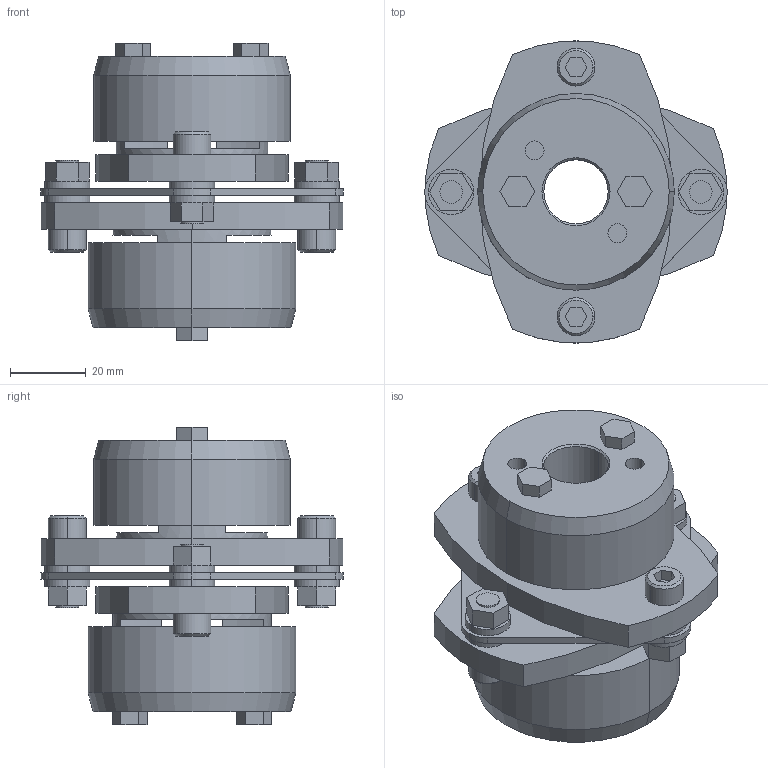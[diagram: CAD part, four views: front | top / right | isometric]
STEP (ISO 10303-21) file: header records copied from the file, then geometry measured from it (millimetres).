
FILE_DESCRIPTION((''),'2;1');
FILE_NAME('LCS-80T7-17×20.stp','2011-09-12T14:53:14',(''),(''),'AutoCAD STEP 2000i','AutoCAD 2000i',', , ');
FILE_SCHEMA(('CONFIG_CONTROL_DESIGN'));
Length unit declared in the file: millimetre
Products named in the file (6): LCS-80T7-17×19; 忣兜1; LC80T7-T019; LC80T7-T017-1; LC80T7-T017; LCS80-ITA
Assembly tree (5 placements, depth 2):
  LCS-80T7-17×19
    忣兜1
    LC80T7-T019
    LC80T7-T017-1
    LC80T7-T017
    LCS80-ITA
Bounding box: 80 x 79.95 x 78.75 mm (x, y, z)
Volume: 147202.9 mm3; surface area: 41803.3 mm2
Topology: 1 solids, 1 shells, 218 faces, 532 edges, 348 vertices
Faces by surface type: plane 118, cylinder 80, cone 20
Entity records: 6633 total; most frequent: DIRECTION 1176, CARTESIAN_POINT 1104, ORIENTED_EDGE 1064, EDGE_CURVE 532, AXIS2_PLACEMENT_3D 420, VERTEX_POINT 348, VECTOR 336, LINE 336
